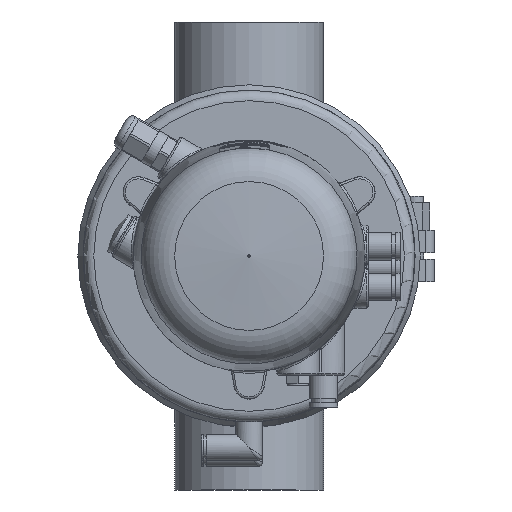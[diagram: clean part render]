
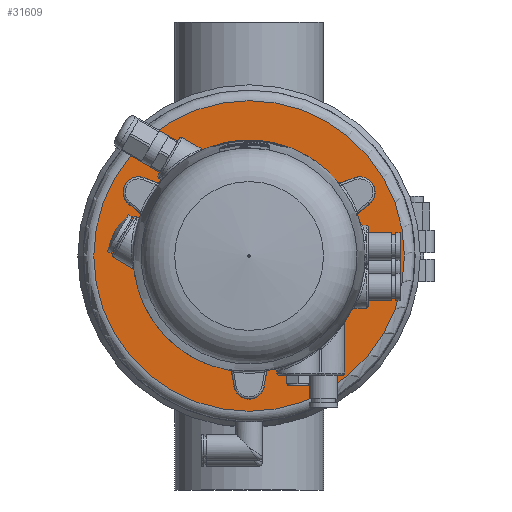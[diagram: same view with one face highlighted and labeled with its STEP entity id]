
A CAD part, front view. The second image highlights one B-rep face of the part: STEP entity #31609.
In plain terms, the highlighted planar face has unit normal (0, -1, 0) as drawn and (0, 1, 0) by its records, which use the part's own axes.
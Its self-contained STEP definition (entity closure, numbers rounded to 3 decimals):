
#1237 = CARTESIAN_POINT ( 'NONE',  ( 0., 263., -17.5 ) ) ;
#1679 = EDGE_LOOP ( 'NONE', ( #23030 ) ) ;
#1976 = EDGE_CURVE ( 'NONE', #57269, #57269, #54670, .T. ) ;
#3415 = ORIENTED_EDGE ( 'NONE', *, *, #36194, .T. ) ;
#4228 = VERTEX_POINT ( 'NONE', #24588 ) ;
#8064 = ORIENTED_EDGE ( 'NONE', *, *, #1976, .F. ) ;
#9593 = EDGE_LOOP ( 'NONE', ( #8064 ) ) ;
#10153 = CARTESIAN_POINT ( 'NONE',  ( 0., 263., -73. ) ) ;
#10834 = FACE_BOUND ( 'NONE', #1679, .T. ) ;
#11083 = CIRCLE ( 'NONE', #13124, 73. ) ;
#11860 = AXIS2_PLACEMENT_3D ( 'NONE', #33322, #44156, #59276 ) ;
#12354 = EDGE_LOOP ( 'NONE', ( #3415 ) ) ;
#13124 = AXIS2_PLACEMENT_3D ( 'NONE', #13899, #33923, #28683 ) ;
#13501 = VERTEX_POINT ( 'NONE', #28609 ) ;
#13865 = FACE_BOUND ( 'NONE', #41328, .T. ) ;
#13899 = CARTESIAN_POINT ( 'NONE',  ( 0., 263., 0. ) ) ;
#15718 = DIRECTION ( 'NONE',  ( 0., -1., 0. ) ) ;
#16652 = DIRECTION ( 'NONE',  ( 0., 0., 1. ) ) ;
#17218 = ORIENTED_EDGE ( 'NONE', *, *, #33490, .F. ) ;
#21397 = EDGE_CURVE ( 'NONE', #13501, #13501, #40151, .T. ) ;
#22088 = AXIS2_PLACEMENT_3D ( 'NONE', #33882, #15718, #29303 ) ;
#23030 = ORIENTED_EDGE ( 'NONE', *, *, #21397, .T. ) ;
#24450 = AXIS2_PLACEMENT_3D ( 'NONE', #58268, #29039, #16652 ) ;
#24588 = CARTESIAN_POINT ( 'NONE',  ( 0., 263., 19.6 ) ) ;
#26314 = AXIS2_PLACEMENT_3D ( 'NONE', #1237, #48160, #57720 ) ;
#28609 = CARTESIAN_POINT ( 'NONE',  ( 0., 263., -10. ) ) ;
#28683 = DIRECTION ( 'NONE',  ( 0., 0., -1. ) ) ;
#29039 = DIRECTION ( 'NONE',  ( 0., 1., 0. ) ) ;
#29303 = DIRECTION ( 'NONE',  ( 0., 0., -1. ) ) ;
#31609 = ADVANCED_FACE ( 'NONE', ( #48636, #13865, #63461, #10834 ), #38769, .F. ) ;
#33322 = CARTESIAN_POINT ( 'NONE',  ( 0., 263., 0. ) ) ;
#33490 = EDGE_CURVE ( 'NONE', #4228, #4228, #46474, .T. ) ;
#33882 = CARTESIAN_POINT ( 'NONE',  ( -78., 263., 0. ) ) ;
#33923 = DIRECTION ( 'NONE',  ( 0., 1., 0. ) ) ;
#35700 = VERTEX_POINT ( 'NONE', #10153 ) ;
#36194 = EDGE_CURVE ( 'NONE', #35700, #35700, #11083, .T. ) ;
#38769 = PLANE ( 'NONE',  #22088 ) ;
#40151 = CIRCLE ( 'NONE', #11860, 10. ) ;
#41328 = EDGE_LOOP ( 'NONE', ( #17218 ) ) ;
#42793 = CARTESIAN_POINT ( 'NONE',  ( 0., 263., -15.4 ) ) ;
#44156 = DIRECTION ( 'NONE',  ( 0., -1., 0. ) ) ;
#46474 = CIRCLE ( 'NONE', #24450, 2.1 ) ;
#48160 = DIRECTION ( 'NONE',  ( 0., 1., 0. ) ) ;
#48636 = FACE_BOUND ( 'NONE', #9593, .T. ) ;
#54670 = CIRCLE ( 'NONE', #26314, 2.1 ) ;
#57269 = VERTEX_POINT ( 'NONE', #42793 ) ;
#57720 = DIRECTION ( 'NONE',  ( 0., 0., 1. ) ) ;
#58268 = CARTESIAN_POINT ( 'NONE',  ( 0., 263., 17.5 ) ) ;
#59276 = DIRECTION ( 'NONE',  ( 0., 0., -1. ) ) ;
#63461 = FACE_OUTER_BOUND ( 'NONE', #12354, .T. ) ;
